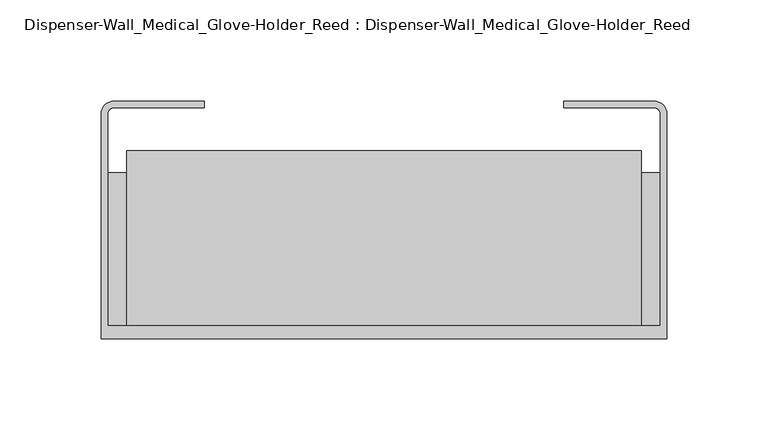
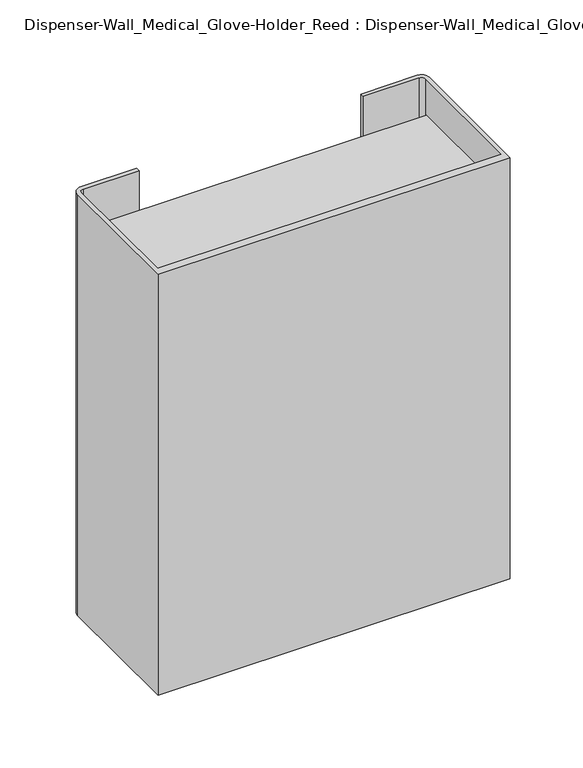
"""IFC4 building model written with IfcOpenShell, lengths in millimetres: proxy geometry, Dispenser-Wall_Medical_Glove-Holder_Reed : Dispenser-Wall_Medical_Glove-Holder_Reed."""

from ifc_helpers import new_model, si_unit, point, frame, frame_2d, origin, place, context, project, spatial, polyline, circle_curve, ellipse_curve, trimmed, segment, composite_curve, outline, extrude, source, transform, mapped, element, save
from ifc_brep_helpers import plane_surface, extruded_surface, advanced_brep


def dispenser_wall_medical_glove_holder_reed_dispenser_wall_c39a3ff9(model_context):
    return source(origin(), model_context, "Body", "SolidModel", [
        advanced_brep(
        [(-127.0, 76.35, 981.4270638), (-127.0, 76.35, 873.4770638), (127.0, 76.35, 873.4770638), (127.0, 76.35, 981.4270638), (-127.0, 162.8253057, 981.4270638), (127.0, 162.8253057, 981.4270638), (127.0, 162.8253057, 873.4770638), (-127.0, 162.8253057, 873.4770638), (-69.4913713, 162.8253057, 928.696569), (70.2086287, 162.8253057, 928.696569), (-69.4913713, 151.955179, 928.696569), (70.2086287, 151.955179, 928.696569)],
        [
            (0, 1),
            (1, 2),
            (2, 3),
            (3, 0),
            (4, 5),
            (5, 6),
            (6, 7),
            (7, 4),
            (8, 9, ellipse_curve(frame((0.3586287, 162.8253057, 928.696569), z_axis=(0.0, -1.0, 0.0), x_axis=(1.0, 0.0, 0.0)), 69.85, 25.4)),
            (9, 8, ellipse_curve(frame((0.3586287, 162.8253057, 928.696569), z_axis=(0.0, -1.0, 0.0), x_axis=(1.0, 0.0, 0.0)), 69.85, 25.4)),
            (0, 4),
            (7, 1),
            (6, 2),
            (5, 3),
            (10, 11, ellipse_curve(frame((0.3586287, 151.955179, 928.696569), z_axis=(0.0, 1.0, 0.0), x_axis=(1.0, 0.0, 0.0)), 69.85, 25.4)),
            (11, 10, ellipse_curve(frame((0.3586287, 151.955179, 928.696569), z_axis=(0.0, 1.0, 0.0), x_axis=(1.0, 0.0, 0.0)), 69.85, 25.4)),
            (11, 9),
            (8, 10),
        ],
        [
            plane_surface(frame((-127.0, 76.35, 981.4270638), z_axis=(0.0, -1.0, 0.0), x_axis=(0.0, 0.0, -1.0))),
            plane_surface(frame((-127.0, 162.8253057, 981.4270638), z_axis=(0.0, 1.0, 0.0), x_axis=(0.0, 0.0, 1.0))),
            plane_surface(frame((-127.0, 76.35, 981.4270638), z_axis=(-1.0, 0.0, 0.0), x_axis=(0.0, 1.0, 0.0))),
            plane_surface(frame((-127.0, 76.35, 873.4770638), z_axis=(0.0, 0.0, -1.0), x_axis=(0.0, 1.0, 0.0))),
            plane_surface(frame((127.0, 76.35, 873.4770638), z_axis=(1.0, 0.0, 0.0), x_axis=(0.0, 1.0, 0.0))),
            plane_surface(frame((127.0, 76.35, 981.4270638), z_axis=(0.0, 0.0, 1.0), x_axis=(0.0, 1.0, 0.0))),
            plane_surface(frame((70.2086287, 151.955179, 928.696569), z_axis=(0.0, 1.0, 0.0), x_axis=(0.0, 0.0, 1.0))),
            extruded_surface(trimmed(ellipse_curve(frame((0.3586287, 193.825, 928.696569), z_axis=(0.0, -1.0, 0.0), x_axis=(1.0, 0.0, 0.0)), 69.85, 25.4), [point((-69.4913713, 193.825, 928.696569))], [point((70.2086287, 193.825, 928.696569))], True, "CARTESIAN"), (0.0, 41.869821, 0.0), 41.869821),
            extruded_surface(trimmed(ellipse_curve(frame((0.3586287, 193.825, 928.696569), z_axis=(0.0, -1.0, 0.0), x_axis=(1.0, 0.0, 0.0)), 69.85, 25.4), [point((70.2086287, 193.825, 928.696569))], [point((-69.4913713, 193.825, 928.696569))], True, "CARTESIAN"), (0.0, 41.869821, 0.0), 41.869821),
        ],
        [
            (0, [[1, 2, 3, 4]]),
            (1, [[5, 6, 7, 8], [9, 10]]),
            (2, [[-1, 11, -8, 12]]),
            (3, [[-2, -12, -7, 13]]),
            (4, [[-3, -13, -6, 14]]),
            (5, [[-4, -14, -5, -11]]),
            (6, [[15, 16]]),
            (7, [[-16, 17, -9, 18]]),
            (8, [[-15, -18, -10, -17]]),
        ],
    ),
        advanced_brep(
        [(-127.0, 76.35, 1092.2488758), (-127.0, 76.35, 984.2988758), (127.0, 76.35, 984.2988758), (127.0, 76.35, 1092.2488758), (-127.0, 162.8253057, 1092.2488758), (127.0, 162.8253057, 1092.2488758), (127.0, 162.8253057, 984.2988758), (-127.0, 162.8253057, 984.2988758), (-69.4913713, 162.8253057, 1039.518381), (70.2086287, 162.8253057, 1039.518381), (-69.4913713, 151.955179, 1039.518381), (70.2086287, 151.955179, 1039.518381)],
        [
            (0, 1),
            (1, 2),
            (2, 3),
            (3, 0),
            (4, 5),
            (5, 6),
            (6, 7),
            (7, 4),
            (8, 9, ellipse_curve(frame((0.3586287, 162.8253057, 1039.518381), z_axis=(0.0, -1.0, 0.0), x_axis=(1.0, 0.0, 0.0)), 69.85, 25.4)),
            (9, 8, ellipse_curve(frame((0.3586287, 162.8253057, 1039.518381), z_axis=(0.0, -1.0, 0.0), x_axis=(1.0, 0.0, 0.0)), 69.85, 25.4)),
            (0, 4),
            (7, 1),
            (6, 2),
            (5, 3),
            (10, 11, ellipse_curve(frame((0.3586287, 151.955179, 1039.518381), z_axis=(0.0, 1.0, 0.0), x_axis=(1.0, 0.0, 0.0)), 69.85, 25.4)),
            (11, 10, ellipse_curve(frame((0.3586287, 151.955179, 1039.518381), z_axis=(0.0, 1.0, 0.0), x_axis=(1.0, 0.0, 0.0)), 69.85, 25.4)),
            (11, 9),
            (8, 10),
        ],
        [
            plane_surface(frame((-127.0, 76.35, 1092.2488758), z_axis=(0.0, -1.0, 0.0), x_axis=(0.0, 0.0, -1.0))),
            plane_surface(frame((-127.0, 162.8253057, 1092.2488758), z_axis=(0.0, 1.0, 0.0), x_axis=(0.0, 0.0, 1.0))),
            plane_surface(frame((-127.0, 76.35, 1092.2488758), z_axis=(-1.0, 0.0, 0.0), x_axis=(0.0, 1.0, 0.0))),
            plane_surface(frame((-127.0, 76.35, 984.2988758), z_axis=(0.0, 0.0, -1.0), x_axis=(0.0, 1.0, 0.0))),
            plane_surface(frame((127.0, 76.35, 984.2988758), z_axis=(1.0, 0.0, 0.0), x_axis=(0.0, 1.0, 0.0))),
            plane_surface(frame((127.0, 76.35, 1092.2488758), z_axis=(0.0, 0.0, 1.0), x_axis=(0.0, 1.0, 0.0))),
            plane_surface(frame((70.2086287, 151.955179, 1039.518381), z_axis=(0.0, 1.0, 0.0), x_axis=(0.0, 0.0, 1.0))),
            extruded_surface(trimmed(ellipse_curve(frame((0.3586287, 184.0721557, 1039.518381), z_axis=(0.0, -1.0, 0.0), x_axis=(1.0, 0.0, 0.0)), 69.85, 25.4), [point((-69.4913713, 184.0721557, 1039.518381))], [point((70.2086287, 184.0721557, 1039.518381))], True, "CARTESIAN"), (0.0, 32.1169768, 0.0), 32.1169768),
            extruded_surface(trimmed(ellipse_curve(frame((0.3586287, 184.0721557, 1039.518381), z_axis=(0.0, -1.0, 0.0), x_axis=(1.0, 0.0, 0.0)), 69.85, 25.4), [point((70.2086287, 184.0721557, 1039.518381))], [point((-69.4913713, 184.0721557, 1039.518381))], True, "CARTESIAN"), (0.0, 32.1169768, 0.0), 32.1169768),
        ],
        [
            (0, [[1, 2, 3, 4]]),
            (1, [[5, 6, 7, 8], [9, 10]]),
            (2, [[-1, 11, -8, 12]]),
            (3, [[-2, -12, -7, 13]]),
            (4, [[-3, -13, -6, 14]]),
            (5, [[-4, -14, -5, -11]]),
            (6, [[15, 16]]),
            (7, [[-16, 17, -9, 18]]),
            (8, [[-15, -18, -10, -17]]),
        ],
    ),
        advanced_brep(
        [(-127.0, 76.35, 1202.7895135), (-127.0, 76.35, 1094.8395135), (127.0, 76.35, 1094.8395135), (127.0, 76.35, 1202.7895135), (-127.0, 162.8253057, 1202.7895135), (127.0, 162.8253057, 1202.7895135), (127.0, 162.8253057, 1094.8395135), (-127.0, 162.8253057, 1094.8395135), (-69.4913713, 162.8253057, 1150.0590187), (70.2086287, 162.8253057, 1150.0590187), (-69.4913713, 151.955179, 1150.0590187), (70.2086287, 151.955179, 1150.0590187)],
        [
            (0, 1),
            (1, 2),
            (2, 3),
            (3, 0),
            (4, 5),
            (5, 6),
            (6, 7),
            (7, 4),
            (8, 9, ellipse_curve(frame((0.3586287, 162.8253057, 1150.0590187), z_axis=(0.0, -1.0, 0.0), x_axis=(1.0, 0.0, 0.0)), 69.85, 25.4)),
            (9, 8, ellipse_curve(frame((0.3586287, 162.8253057, 1150.0590187), z_axis=(0.0, -1.0, 0.0), x_axis=(1.0, 0.0, 0.0)), 69.85, 25.4)),
            (0, 4),
            (7, 1),
            (6, 2),
            (5, 3),
            (10, 11, ellipse_curve(frame((0.3586287, 151.955179, 1150.0590187), z_axis=(0.0, 1.0, 0.0), x_axis=(1.0, 0.0, 0.0)), 69.85, 25.4)),
            (11, 10, ellipse_curve(frame((0.3586287, 151.955179, 1150.0590187), z_axis=(0.0, 1.0, 0.0), x_axis=(1.0, 0.0, 0.0)), 69.85, 25.4)),
            (11, 9),
            (8, 10),
        ],
        [
            plane_surface(frame((-127.0, 76.35, 1202.7895135), z_axis=(0.0, -1.0, 0.0), x_axis=(0.0, 0.0, -1.0))),
            plane_surface(frame((-127.0, 162.8253057, 1202.7895135), z_axis=(0.0, 1.0, 0.0), x_axis=(0.0, 0.0, 1.0))),
            plane_surface(frame((-127.0, 76.35, 1202.7895135), z_axis=(-1.0, 0.0, 0.0), x_axis=(0.0, 1.0, 0.0))),
            plane_surface(frame((-127.0, 76.35, 1094.8395135), z_axis=(0.0, 0.0, -1.0), x_axis=(0.0, 1.0, 0.0))),
            plane_surface(frame((127.0, 76.35, 1094.8395135), z_axis=(1.0, 0.0, 0.0), x_axis=(0.0, 1.0, 0.0))),
            plane_surface(frame((127.0, 76.35, 1202.7895135), z_axis=(0.0, 0.0, 1.0), x_axis=(0.0, 1.0, 0.0))),
            plane_surface(frame((70.2086287, 151.955179, 1150.0590187), z_axis=(0.0, 1.0, 0.0), x_axis=(0.0, 0.0, 1.0))),
            extruded_surface(trimmed(ellipse_curve(frame((0.3586287, 184.0721557, 1150.0590187), z_axis=(0.0, -1.0, 0.0), x_axis=(1.0, 0.0, 0.0)), 69.85, 25.4), [point((-69.4913713, 184.0721557, 1150.0590187))], [point((70.2086287, 184.0721557, 1150.0590187))], True, "CARTESIAN"), (0.0, 32.1169768, 0.0), 32.1169768),
            extruded_surface(trimmed(ellipse_curve(frame((0.3586287, 184.0721557, 1150.0590187), z_axis=(0.0, -1.0, 0.0), x_axis=(1.0, 0.0, 0.0)), 69.85, 25.4), [point((70.2086287, 184.0721557, 1150.0590187))], [point((-69.4913713, 184.0721557, 1150.0590187))], True, "CARTESIAN"), (0.0, 32.1169768, 0.0), 32.1169768),
        ],
        [
            (0, [[1, 2, 3, 4]]),
            (1, [[5, 6, 7, 8], [9, 10]]),
            (2, [[-1, 11, -8, 12]]),
            (3, [[-2, -12, -7, 13]]),
            (4, [[-3, -13, -6, 14]]),
            (5, [[-4, -14, -5, -11]]),
            (6, [[15, 16]]),
            (7, [[-16, 17, -9, 18]]),
            (8, [[-15, -18, -10, -17]]),
        ],
    ),
        extrude(outline(composite_curve([segment(polyline([(139.7, 70.0), (-139.7, 70.0), (-139.7, 180.8971557)]), True, "CONTINUOUS"), segment(trimmed(circle_curve(frame_2d((-133.35, 180.8971557)), 6.35), [point((-139.7, 180.8971557))], [point((-133.35, 187.2471557))], False, "CARTESIAN"), True, "CONTINUOUS"), segment(polyline([(-133.35, 187.2471557), (-88.9, 187.2471557), (-88.9, 184.0721557), (-133.35, 184.0721557)]), True, "CONTINUOUS"), segment(trimmed(circle_curve(frame_2d((-133.35, 180.8971557)), 3.175), [point((-133.35, 184.0721557))], [point((-136.525, 180.8971557))], True, "CARTESIAN"), True, "CONTINUOUS"), segment(polyline([(-136.525, 180.8971557), (-136.525, 76.35), (136.525, 76.35), (136.525, 180.8971557)]), True, "CONTINUOUS"), segment(trimmed(circle_curve(frame_2d((133.35, 180.8971557)), 3.175), [point((136.525, 180.8971557))], [point((133.35, 184.0721557))], True, "CARTESIAN"), True, "CONTINUOUS"), segment(polyline([(133.35, 184.0721557), (88.9, 184.0721557), (88.9, 187.2471557), (133.35, 187.2471557)]), True, "CONTINUOUS"), segment(trimmed(circle_curve(frame_2d((133.35, 180.8971557)), 6.35), [point((133.35, 187.2471557))], [point((139.7, 180.8971557))], False, "CARTESIAN"), True, "CONTINUOUS"), segment(polyline([(139.7, 180.8971557), (139.7, 70.0)]), True, "CONTINUOUS")], self_intersect=False)), frame((0.0, 0.0, 866.2395135), z_axis=(0.0, 0.0, 1.0), x_axis=(1.0, 0.0, 0.0)), (0.0, 0.0, 1.0), 352.9604865),
        extrude(outline(polyline([(136.525, 70.0), (-136.525, 70.0), (-136.525, 151.955179), (136.525, 151.955179), (136.525, 70.0)])), frame((0.0, 0.0, 866.2395135), z_axis=(0.0, 0.0, 1.0), x_axis=(1.0, 0.0, 0.0)), (0.0, 0.0, 1.0), 7.2375503),
    ])


if __name__ == "__main__":
    model = new_model("IFC4")
    model_context = context("Model", 3, world=origin())
    ifc_project = project(units=[si_unit("LENGTHUNIT", "METRE", prefix="MILLI")], contexts=[model_context])
    site = spatial("IfcSite", under=ifc_project)
    building = spatial("IfcBuilding", under=site)
    placement = place(None, origin())
    dispenser_wall_medical_glove_holder_reed_dispenser_wall_shape = dispenser_wall_medical_glove_holder_reed_dispenser_wall_c39a3ff9(model_context)
    element("IfcBuildingElementProxy", 1, Name="Dispenser-Wall_Medical_Glove-Holder_Reed : Dispenser-Wall_Medical_Glove-Holder_Reed", ObjectType="Dispenser-Wall_Medical_Glove-Holder_Reed : Dispenser-Wall_Medical_Glove-Holder_Reed", at=placement, inside=building, context=model_context, shape_type="MappedRepresentation", body=[
        mapped(dispenser_wall_medical_glove_holder_reed_dispenser_wall_shape, transform((0.0, 0.0, 0.0), x_axis=(1.0, 0.0, 0.0), y_axis=(0.0, 1.0, 0.0), z_axis=(0.0, 0.0, 1.0))),
    ])
    save(model, "model.ifc")
